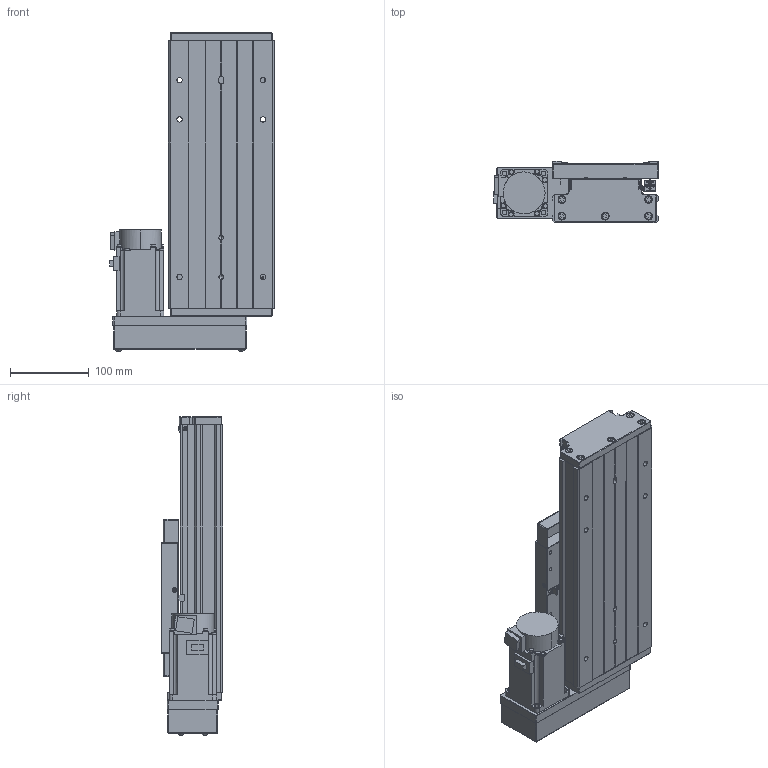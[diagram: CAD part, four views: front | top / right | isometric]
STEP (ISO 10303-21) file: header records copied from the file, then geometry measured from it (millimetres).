
FILE_DESCRIPTION (( 'STEP AP203' ), '1' );
FILE_NAME ('GTH14-100-BL-M40-C4.step', '2023-06-30T08:37:33', ( '微软用户' ), ( '微软中国' ), 'SwSTEP 2.0', 'SolidWorks 2020', '' );
FILE_SCHEMA (( 'CONFIG_CONTROL_DESIGN' ));
Length unit declared in the file: millimetre
Products named in the file (19): GB1155-6X6; GTH14-031; GTH14-100-BL-M40-C4; GBT70.1 M5℅16; GBT 70.2-M3¡Á5_M3¡Á6; CTHA60-017; す晦芛蹟隊 M3℅5; GTH14-001_100; EE_SX911P_R; HG-KN43J-S100; GTH14-002_GTH14-002; CTHA60-016; GBT 70.2-M4¡Á35_M4¡Á35; GTH14-004; GBT 70.1-M3℅5; GTH14-015-2_CTHA86-015-2; GTH14-005; GBT77-2000 M3×3; GTH14-033
Assembly tree (58 placements, depth 2):
  GTH14-100-BL-M40-C4
    GTH14-001_100
    GTH14-002_GTH14-002
    GTH14-004
    GTH14-005
    GB1155-6X6  x2
    GBT70.1 M5℅16  x10
    CTHA60-017  x3
    EE_SX911P_R  x3
    CTHA60-016  x2
    GBT 70.1-M3℅5  x6
    GBT77-2000 M3×3  x6
    GTH14-031
    GBT 70.2-M3¡Á5_M3¡Á6  x8
    す晦芛蹟隊 M3℅5  x6
    HG-KN43J-S100
    GBT 70.2-M4¡Á35_M4¡Á35  x4
    GTH14-015-2_CTHA86-015-2
    GTH14-033
Bounding box: 209.3 x 78 x 404.2 mm (x, y, z)
Volume: 2644281.7 mm3; surface area: 528142.2 mm2
Topology: 61 solids, 61 shells, 2433 faces, 5785 edges, 3562 vertices
Faces by surface type: plane 1303, cylinder 640, cone 314, torus 124, sphere 32, bspline 20
Entity records: 43542 total; most frequent: CARTESIAN_POINT 9757, DIRECTION 6369, ORIENTED_EDGE 6260, EDGE_CURVE 3130, AXIS2_PLACEMENT_3D 2166, LINE 2037, VECTOR 2037, VERTEX_POINT 1980
